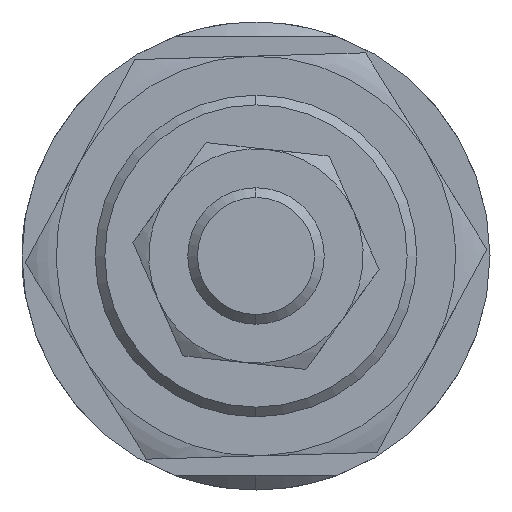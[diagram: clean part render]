
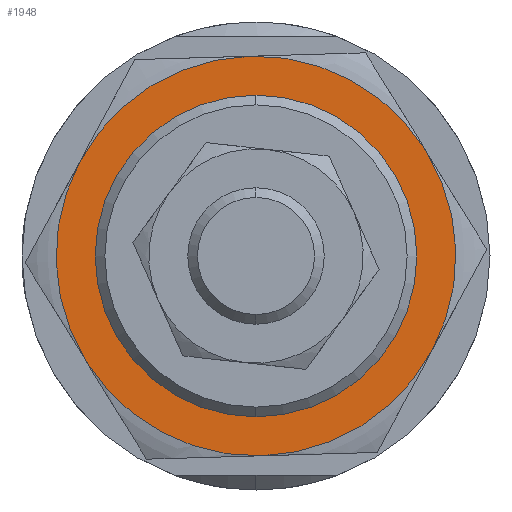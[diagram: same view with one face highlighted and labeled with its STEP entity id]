
A CAD part, left-side view. The second image highlights one B-rep face of the part: STEP entity #1948.
In plain terms, the highlighted planar face has unit normal (-1, 0, 0) as drawn and (0, 0, -1) by its records, which use the part's own axes.
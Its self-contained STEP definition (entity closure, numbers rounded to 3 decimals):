
#67 = DIRECTION ( 'NONE',  ( 1., 0., 0. ) ) ;
#173 = EDGE_CURVE ( 'NONE', #894, #2274, #4129, .T. ) ;
#252 = VERTEX_POINT ( 'NONE', #504 ) ;
#349 = DIRECTION ( 'NONE',  ( 0., 0., 1. ) ) ;
#504 = CARTESIAN_POINT ( 'NONE',  ( 10.25, 17.754, -5.5 ) ) ;
#580 = VERTEX_POINT ( 'NONE', #4379 ) ;
#687 = AXIS2_PLACEMENT_3D ( 'NONE', #3338, #4525, #4651 ) ;
#733 = CARTESIAN_POINT ( 'NONE',  ( 0., 0., -5.5 ) ) ;
#819 = DIRECTION ( 'NONE',  ( 0., 0., 1. ) ) ;
#827 = FACE_BOUND ( 'NONE', #2434, .T. ) ;
#894 = VERTEX_POINT ( 'NONE', #2915 ) ;
#902 = DIRECTION ( 'NONE',  ( 0., 0., 1. ) ) ;
#968 = CARTESIAN_POINT ( 'NONE',  ( -10.25, 17.754, -5.5 ) ) ;
#998 = DIRECTION ( 'NONE',  ( 1., 0., 0. ) ) ;
#1043 = EDGE_CURVE ( 'NONE', #252, #4278, #2708, .T. ) ;
#1065 = AXIS2_PLACEMENT_3D ( 'NONE', #3410, #2097, #1635 ) ;
#1106 = CIRCLE ( 'NONE', #1879, 20.5 ) ;
#1121 = VERTEX_POINT ( 'NONE', #3605 ) ;
#1268 = EDGE_CURVE ( 'NONE', #2274, #894, #2857, .T. ) ;
#1477 = ORIENTED_EDGE ( 'NONE', *, *, #1268, .T. ) ;
#1504 = CARTESIAN_POINT ( 'NONE',  ( 0., 0., -5.5 ) ) ;
#1505 = ORIENTED_EDGE ( 'NONE', *, *, #173, .T. ) ;
#1542 = CIRCLE ( 'NONE', #687, 20.5 ) ;
#1564 = EDGE_CURVE ( 'NONE', #2423, #580, #3411, .T. ) ;
#1600 = DIRECTION ( 'NONE',  ( 0., 0., 1. ) ) ;
#1635 = DIRECTION ( 'NONE',  ( 1., 0., 0. ) ) ;
#1700 = ORIENTED_EDGE ( 'NONE', *, *, #2703, .F. ) ;
#1737 = CARTESIAN_POINT ( 'NONE',  ( 0., 0., -5.5 ) ) ;
#1793 = CARTESIAN_POINT ( 'NONE',  ( -20.5, 0., -5.5 ) ) ;
#1809 = FACE_OUTER_BOUND ( 'NONE', #4065, .T. ) ;
#1828 = AXIS2_PLACEMENT_3D ( 'NONE', #3055, #3878, #998 ) ;
#1879 = AXIS2_PLACEMENT_3D ( 'NONE', #1737, #1600, #4266 ) ;
#1948 = ADVANCED_FACE ( 'NONE', ( #827, #1809 ), #1988, .F. ) ;
#1974 = CARTESIAN_POINT ( 'NONE',  ( 15.5, 0., -5.5 ) ) ;
#1988 = PLANE ( 'NONE',  #1828 ) ;
#2097 = DIRECTION ( 'NONE',  ( 0., 0., 1. ) ) ;
#2274 = VERTEX_POINT ( 'NONE', #1974 ) ;
#2278 = ORIENTED_EDGE ( 'NONE', *, *, #4319, .F. ) ;
#2301 = CARTESIAN_POINT ( 'NONE',  ( 0., 0., -5.5 ) ) ;
#2359 = ORIENTED_EDGE ( 'NONE', *, *, #4394, .F. ) ;
#2393 = DIRECTION ( 'NONE',  ( 1., 0., 0. ) ) ;
#2423 = VERTEX_POINT ( 'NONE', #4395 ) ;
#2434 = EDGE_LOOP ( 'NONE', ( #1477, #1505 ) ) ;
#2454 = AXIS2_PLACEMENT_3D ( 'NONE', #1504, #349, #4462 ) ;
#2703 = EDGE_CURVE ( 'NONE', #4278, #3209, #1106, .T. ) ;
#2708 = CIRCLE ( 'NONE', #3360, 20.5 ) ;
#2734 = DIRECTION ( 'NONE',  ( 1., 0., 0. ) ) ;
#2857 = CIRCLE ( 'NONE', #1065, 15.5 ) ;
#2886 = EDGE_CURVE ( 'NONE', #3209, #1121, #1542, .T. ) ;
#2915 = CARTESIAN_POINT ( 'NONE',  ( -15.5, 0., -5.5 ) ) ;
#2985 = DIRECTION ( 'NONE',  ( 0., 0., 1. ) ) ;
#3017 = AXIS2_PLACEMENT_3D ( 'NONE', #4097, #2985, #2393 ) ;
#3043 = DIRECTION ( 'NONE',  ( 1., 0., 0. ) ) ;
#3055 = CARTESIAN_POINT ( 'NONE',  ( 0., 0., -5.5 ) ) ;
#3057 = AXIS2_PLACEMENT_3D ( 'NONE', #733, #902, #2734 ) ;
#3209 = VERTEX_POINT ( 'NONE', #1793 ) ;
#3338 = CARTESIAN_POINT ( 'NONE',  ( 0., 0., -5.5 ) ) ;
#3360 = AXIS2_PLACEMENT_3D ( 'NONE', #3601, #4356, #67 ) ;
#3410 = CARTESIAN_POINT ( 'NONE',  ( 0., 0., -5.5 ) ) ;
#3411 = CIRCLE ( 'NONE', #3017, 20.5 ) ;
#3571 = ORIENTED_EDGE ( 'NONE', *, *, #2886, .F. ) ;
#3601 = CARTESIAN_POINT ( 'NONE',  ( 0., 0., -5.5 ) ) ;
#3605 = CARTESIAN_POINT ( 'NONE',  ( -10.25, -17.754, -5.5 ) ) ;
#3878 = DIRECTION ( 'NONE',  ( 0., 0., 1. ) ) ;
#4065 = EDGE_LOOP ( 'NONE', ( #2359, #4373, #2278, #3571, #1700, #4242 ) ) ;
#4097 = CARTESIAN_POINT ( 'NONE',  ( 0., 0., -5.5 ) ) ;
#4103 = CIRCLE ( 'NONE', #2454, 20.5 ) ;
#4129 = CIRCLE ( 'NONE', #4374, 15.5 ) ;
#4242 = ORIENTED_EDGE ( 'NONE', *, *, #1043, .F. ) ;
#4266 = DIRECTION ( 'NONE',  ( 1., 0., 0. ) ) ;
#4278 = VERTEX_POINT ( 'NONE', #968 ) ;
#4319 = EDGE_CURVE ( 'NONE', #1121, #2423, #4103, .T. ) ;
#4356 = DIRECTION ( 'NONE',  ( 0., 0., 1. ) ) ;
#4373 = ORIENTED_EDGE ( 'NONE', *, *, #1564, .F. ) ;
#4374 = AXIS2_PLACEMENT_3D ( 'NONE', #2301, #819, #3043 ) ;
#4379 = CARTESIAN_POINT ( 'NONE',  ( 20.5, 0., -5.5 ) ) ;
#4394 = EDGE_CURVE ( 'NONE', #580, #252, #4458, .T. ) ;
#4395 = CARTESIAN_POINT ( 'NONE',  ( 10.25, -17.754, -5.5 ) ) ;
#4458 = CIRCLE ( 'NONE', #3057, 20.5 ) ;
#4462 = DIRECTION ( 'NONE',  ( 1., 0., 0. ) ) ;
#4525 = DIRECTION ( 'NONE',  ( 0., 0., 1. ) ) ;
#4651 = DIRECTION ( 'NONE',  ( 1., 0., 0. ) ) ;
